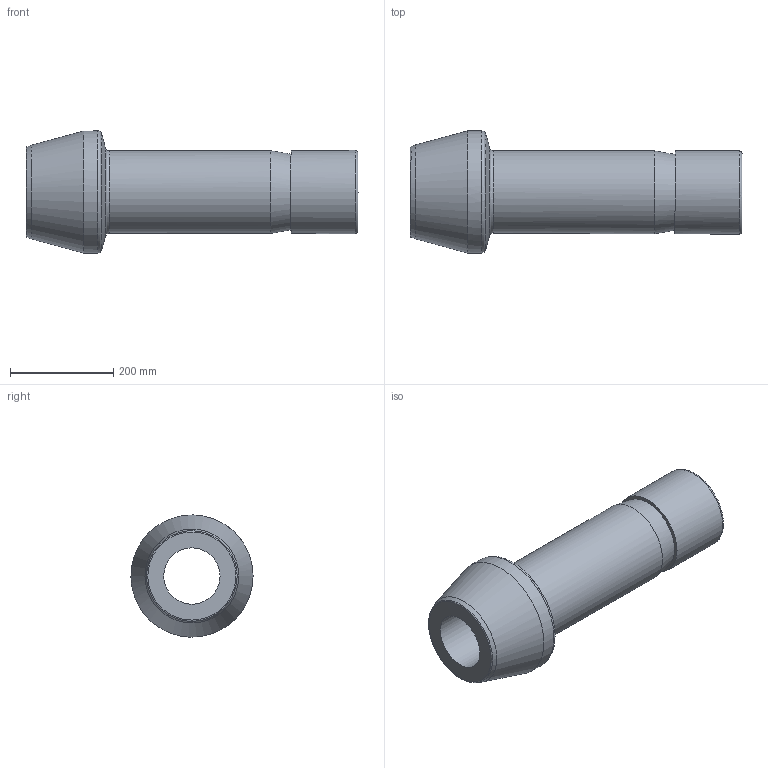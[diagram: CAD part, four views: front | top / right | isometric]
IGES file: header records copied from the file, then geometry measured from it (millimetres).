
Global section: file name: SPC-4; native system: Autodesk Inventor 2016; preprocessor: unknown; author: DESIGNPC2; date: 20151219.131233; units: millimetre
Bounding box: 643.05 x 236.64 x 236.47 mm (x, y, z)
Volume: 9147418.1 mm3; surface area: 617451.6 mm2
Topology: 1 solids, 1 shells, 15 faces, 53 edges, 38 vertices
Faces by surface type: bspline 15
